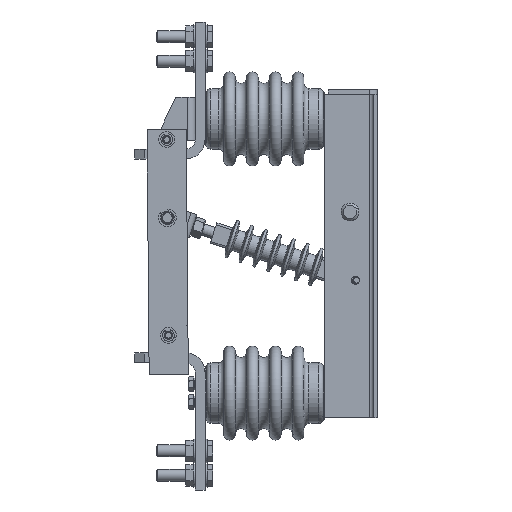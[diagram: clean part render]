
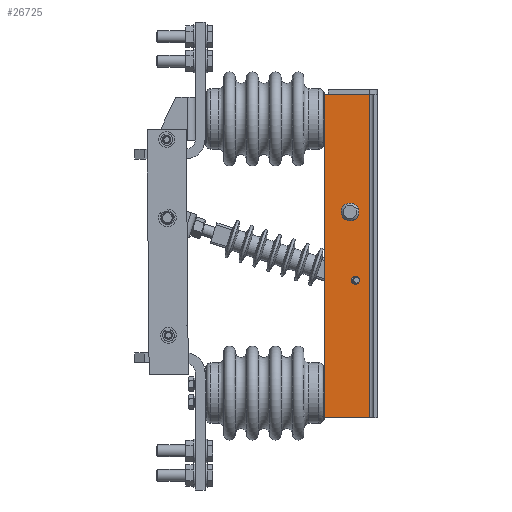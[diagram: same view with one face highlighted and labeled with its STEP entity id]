
A CAD part, left-side view. The second image highlights one B-rep face of the part: STEP entity #26725.
In plain terms, the highlighted planar face has unit normal (-1, 0, 0).
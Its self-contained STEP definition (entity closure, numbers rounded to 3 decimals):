
#2095 = DIRECTION ( 'NONE',  ( 0., 0., 1. ) ) ;
#2187 = CARTESIAN_POINT ( 'NONE',  ( -238.404, 27.996, 59.002 ) ) ;
#4378 = DIRECTION ( 'NONE',  ( 0., 1., 0. ) ) ;
#8525 = EDGE_CURVE ( 'NONE', #19232, #19232, #44006, .T. ) ;
#9675 = VERTEX_POINT ( 'NONE', #11847 ) ;
#11847 = CARTESIAN_POINT ( 'NONE',  ( -238.404, 53.996, 170.002 ) ) ;
#13336 = AXIS2_PLACEMENT_3D ( 'NONE', #77402, #25275, #86148 ) ;
#16882 = EDGE_CURVE ( 'NONE', #21447, #95533, #83072, .T. ) ;
#17203 = ORIENTED_EDGE ( 'NONE', *, *, #42527, .F. ) ;
#18492 = ORIENTED_EDGE ( 'NONE', *, *, #43207, .T. ) ;
#19232 = VERTEX_POINT ( 'NONE', #2187 ) ;
#21447 = VERTEX_POINT ( 'NONE', #66355 ) ;
#21828 = LINE ( 'NONE', #25278, #65382 ) ;
#22160 = CARTESIAN_POINT ( 'NONE',  ( -238.404, 49.996, 170.002 ) ) ;
#22958 = EDGE_LOOP ( 'NONE', ( #94270 ) ) ;
#23786 = VERTEX_POINT ( 'NONE', #33565 ) ;
#24384 = EDGE_LOOP ( 'NONE', ( #63362 ) ) ;
#25154 = AXIS2_PLACEMENT_3D ( 'NONE', #37793, #98666, #46542 ) ;
#25222 = CARTESIAN_POINT ( 'NONE',  ( -238.404, 22.396, -15.623 ) ) ;
#25275 = DIRECTION ( 'NONE',  ( -1., 0., 0. ) ) ;
#25278 = CARTESIAN_POINT ( 'NONE',  ( -238.404, 49.996, -159.998 ) ) ;
#26725 = ADVANCED_FACE ( 'NONE', ( #33180, #102569, #76742 ), #94471, .T. ) ;
#33180 = FACE_OUTER_BOUND ( 'NONE', #76252, .T. ) ;
#33565 = CARTESIAN_POINT ( 'NONE',  ( -238.404, 53.996, -159.998 ) ) ;
#37793 = CARTESIAN_POINT ( 'NONE',  ( -238.404, 22.396, -19.773 ) ) ;
#40376 = CARTESIAN_POINT ( 'NONE',  ( -238.404, 27.996, 50.002 ) ) ;
#42527 = EDGE_CURVE ( 'NONE', #21447, #23786, #21828, .T. ) ;
#43207 = EDGE_CURVE ( 'NONE', #95533, #9675, #81396, .T. ) ;
#44006 = CIRCLE ( 'NONE', #74744, 9. ) ;
#44832 = EDGE_CURVE ( 'NONE', #46171, #46171, #76882, .T. ) ;
#45361 = CARTESIAN_POINT ( 'NONE',  ( -238.404, 53.996, -159.998 ) ) ;
#46171 = VERTEX_POINT ( 'NONE', #25222 ) ;
#46542 = DIRECTION ( 'NONE',  ( 0., 0., 1. ) ) ;
#49119 = DIRECTION ( 'NONE',  ( 0., 0., 1. ) ) ;
#58021 = CARTESIAN_POINT ( 'NONE',  ( -238.404, 7.996, -159.998 ) ) ;
#59949 = VECTOR ( 'NONE', #84254, 1000. ) ;
#63362 = ORIENTED_EDGE ( 'NONE', *, *, #44832, .T. ) ;
#65382 = VECTOR ( 'NONE', #112374, 1000. ) ;
#66355 = CARTESIAN_POINT ( 'NONE',  ( -238.404, 7.996, -159.998 ) ) ;
#69124 = VECTOR ( 'NONE', #2095, 1000. ) ;
#71058 = ORIENTED_EDGE ( 'NONE', *, *, #16882, .T. ) ;
#72585 = ORIENTED_EDGE ( 'NONE', *, *, #91828, .F. ) ;
#74744 = AXIS2_PLACEMENT_3D ( 'NONE', #40376, #101208, #49119 ) ;
#75846 = CARTESIAN_POINT ( 'NONE',  ( -238.404, 7.996, 170.002 ) ) ;
#76252 = EDGE_LOOP ( 'NONE', ( #18492, #72585, #17203, #71058 ) ) ;
#76742 = FACE_BOUND ( 'NONE', #24384, .T. ) ;
#76882 = CIRCLE ( 'NONE', #25154, 4.15 ) ;
#77402 = CARTESIAN_POINT ( 'NONE',  ( -238.404, 49.996, -159.998 ) ) ;
#78677 = VECTOR ( 'NONE', #4378, 1000. ) ;
#81396 = LINE ( 'NONE', #22160, #78677 ) ;
#83072 = LINE ( 'NONE', #58021, #59949 ) ;
#84254 = DIRECTION ( 'NONE',  ( 0., 0., 1. ) ) ;
#86148 = DIRECTION ( 'NONE',  ( 0., 1., 0. ) ) ;
#91828 = EDGE_CURVE ( 'NONE', #23786, #9675, #94925, .T. ) ;
#94270 = ORIENTED_EDGE ( 'NONE', *, *, #8525, .F. ) ;
#94471 = PLANE ( 'NONE',  #13336 ) ;
#94925 = LINE ( 'NONE', #45361, #69124 ) ;
#95533 = VERTEX_POINT ( 'NONE', #75846 ) ;
#98666 = DIRECTION ( 'NONE',  ( 1., 0., 0. ) ) ;
#101208 = DIRECTION ( 'NONE',  ( -1., 0., 0. ) ) ;
#102569 = FACE_BOUND ( 'NONE', #22958, .T. ) ;
#112374 = DIRECTION ( 'NONE',  ( 0., 1., 0. ) ) ;
